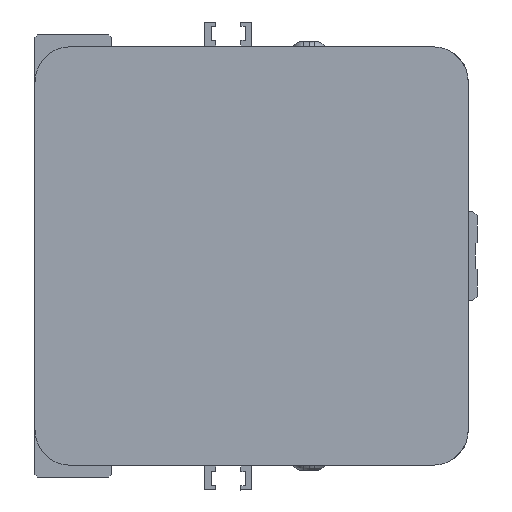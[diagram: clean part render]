
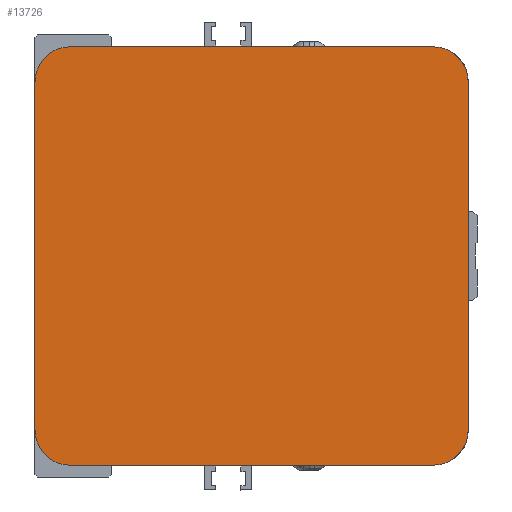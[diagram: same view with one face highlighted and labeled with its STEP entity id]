
A CAD part, left-side view. The second image highlights one B-rep face of the part: STEP entity #13726.
In plain terms, the highlighted planar face has unit normal (-1, 0, 0) as drawn and (0, 0, -1) by its records, which use the part's own axes.
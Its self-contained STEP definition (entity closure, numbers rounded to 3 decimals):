
#996=CIRCLE('',#14709,6.);
#997=CIRCLE('',#14714,6.);
#1005=CIRCLE('',#14725,6.);
#1006=CIRCLE('',#14727,6.);
#1682=FACE_OUTER_BOUND('',#2519,.T.);
#2519=EDGE_LOOP('',(#9590,#9591,#9592,#9593,#9594,#9595,#9596,#9597));
#3613=LINE('',#19299,#4881);
#3618=LINE('',#19310,#4886);
#3625=LINE('',#19325,#4893);
#3629=LINE('',#19410,#4897);
#4881=VECTOR('',#15975,61.5);
#4886=VECTOR('',#15986,59.);
#4893=VECTOR('',#16003,61.5);
#4897=VECTOR('',#16029,59.);
#6147=VERTEX_POINT('',#19295);
#6149=VERTEX_POINT('',#19298);
#6150=VERTEX_POINT('',#19303);
#6152=VERTEX_POINT('',#19309);
#6154=VERTEX_POINT('',#19320);
#6155=VERTEX_POINT('',#19324);
#6164=VERTEX_POINT('',#19405);
#6165=VERTEX_POINT('',#19409);
#7535=EDGE_CURVE('',#6149,#6147,#3613,.T.);
#7538=EDGE_CURVE('',#6149,#6150,#996,.T.);
#7541=EDGE_CURVE('',#6152,#6150,#3618,.T.);
#7547=EDGE_CURVE('',#6152,#6154,#997,.T.);
#7549=EDGE_CURVE('',#6155,#6154,#3625,.T.);
#7562=EDGE_CURVE('',#6164,#6147,#1005,.T.);
#7563=EDGE_CURVE('',#6164,#6165,#3629,.T.);
#7564=EDGE_CURVE('',#6155,#6165,#1006,.T.);
#9590=ORIENTED_EDGE('',*,*,#7547,.F.);
#9591=ORIENTED_EDGE('',*,*,#7541,.T.);
#9592=ORIENTED_EDGE('',*,*,#7538,.F.);
#9593=ORIENTED_EDGE('',*,*,#7535,.T.);
#9594=ORIENTED_EDGE('',*,*,#7562,.F.);
#9595=ORIENTED_EDGE('',*,*,#7563,.T.);
#9596=ORIENTED_EDGE('',*,*,#7564,.F.);
#9597=ORIENTED_EDGE('',*,*,#7549,.T.);
#13204=PLANE('',#14726);
#13726=ADVANCED_FACE('',(#1682),#13204,.F.);
#14709=AXIS2_PLACEMENT_3D('',#19304,#15980,#15981);
#14714=AXIS2_PLACEMENT_3D('',#19321,#15998,#15999);
#14725=AXIS2_PLACEMENT_3D('',#19407,#16025,#16026);
#14726=AXIS2_PLACEMENT_3D('',#19408,#16027,#16028);
#14727=AXIS2_PLACEMENT_3D('',#19411,#16030,#16031);
#15975=DIRECTION('',(0.,-1.,0.));
#15980=DIRECTION('center_axis',(0.,0.,
1.));
#15981=DIRECTION('ref_axis',(0.707,0.707,0.));
#15986=DIRECTION('',(1.,0.,0.));
#15998=DIRECTION('center_axis',(0.,0.,
1.));
#15999=DIRECTION('ref_axis',(-0.707,0.707,0.));
#16003=DIRECTION('',(0.,1.,0.));
#16025=DIRECTION('center_axis',(0.,0.,
1.));
#16026=DIRECTION('ref_axis',(0.707,-0.707,0.));
#16027=DIRECTION('center_axis',(0.,0.,
1.));
#16028=DIRECTION('ref_axis',(1.,0.,0.));
#16029=DIRECTION('',(-1.,0.,0.));
#16030=DIRECTION('center_axis',(0.,0.,
1.));
#16031=DIRECTION('ref_axis',(-0.707,-0.707,0.));
#19295=CARTESIAN_POINT('',(75.2,7.5,-557.));
#19298=CARTESIAN_POINT('',(75.2,69.,-557.));
#19299=CARTESIAN_POINT('',(75.2,69.,-557.));
#19303=CARTESIAN_POINT('',(69.2,75.,-557.));
#19304=CARTESIAN_POINT('Origin',(69.2,69.,-557.));
#19309=CARTESIAN_POINT('',(10.2,75.,-557.));
#19310=CARTESIAN_POINT('',(10.2,75.,-557.));
#19320=CARTESIAN_POINT('',(4.2,69.,-557.));
#19321=CARTESIAN_POINT('Origin',(10.2,69.,-557.));
#19324=CARTESIAN_POINT('',(4.2,7.5,-557.));
#19325=CARTESIAN_POINT('',(4.2,7.5,-557.));
#19405=CARTESIAN_POINT('',(69.2,1.5,-557.));
#19407=CARTESIAN_POINT('Origin',(69.2,7.5,-557.));
#19408=CARTESIAN_POINT('Origin',(39.7,38.25,-557.));
#19409=CARTESIAN_POINT('',(10.2,1.5,-557.));
#19410=CARTESIAN_POINT('',(69.2,1.5,-557.));
#19411=CARTESIAN_POINT('Origin',(10.2,7.5,-557.));
